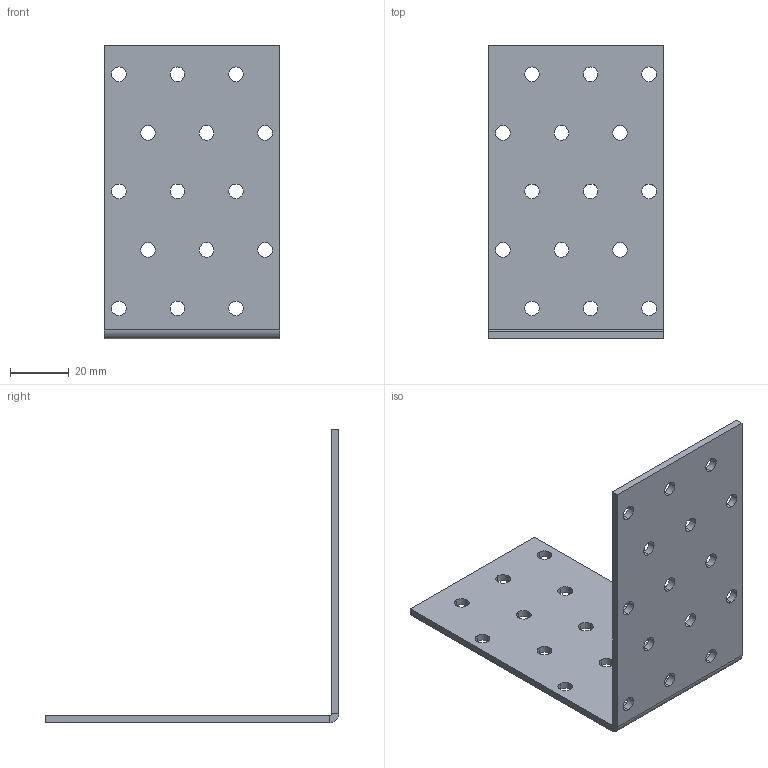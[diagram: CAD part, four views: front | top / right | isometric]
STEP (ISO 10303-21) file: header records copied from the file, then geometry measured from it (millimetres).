
FILE_DESCRIPTION (( 'STEP AP203' ), '1' );
FILE_NAME ('10510.STEP', '2020-04-20T11:21:10', ( '' ), ( '' ), 'SwSTEP 2.0', 'SolidWorks 2013', '' );
FILE_SCHEMA (( 'CONFIG_CONTROL_DESIGN' ));
Length unit declared in the file: millimetre
Products named in the file (1): 10510
Bounding box: 60 x 100.46 x 100.46 mm (x, y, z)
Volume: 28163 mm3; surface area: 24996.3 mm2
Topology: 1 solids, 1 shells, 72 faces, 206 edges, 136 vertices
Faces by surface type: cylinder 62, plane 10
Entity records: 2619 total; most frequent: DIRECTION 476, CARTESIAN_POINT 415, ORIENTED_EDGE 412, EDGE_CURVE 206, AXIS2_PLACEMENT_3D 197, VERTEX_POINT 136, EDGE_LOOP 132, CIRCLE 124
